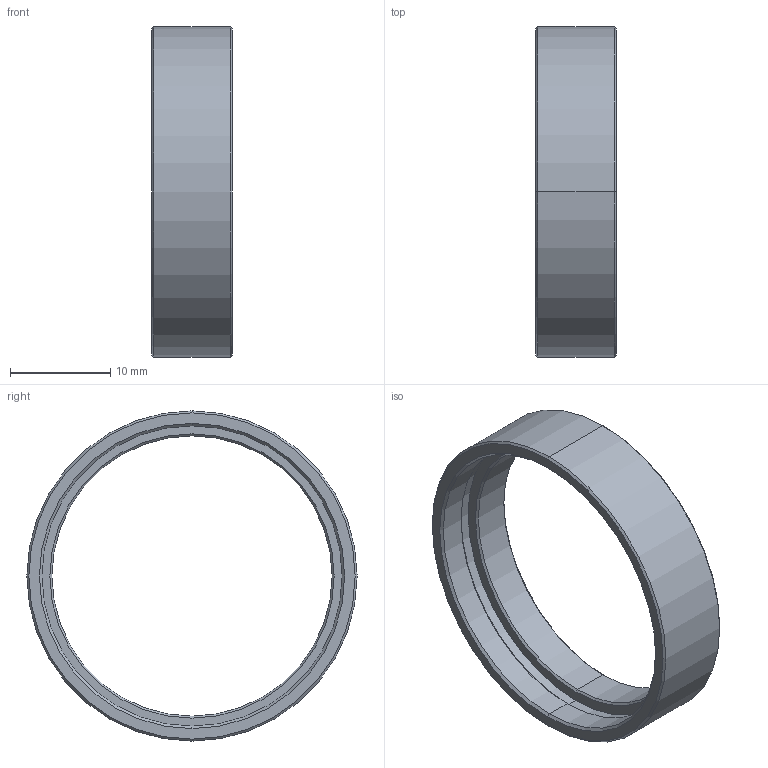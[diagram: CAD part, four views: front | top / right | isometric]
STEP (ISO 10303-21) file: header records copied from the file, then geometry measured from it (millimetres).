
FILE_DESCRIPTION (( 'STEP AP203' ), '1' );
FILE_NAME ('VS-FAD28-305.STEP', '2016-03-25T00:19:50', ( 'miura_vst' ), ( '' ), 'SwSTEP 2.0', 'SolidWorks 2016', '' );
FILE_SCHEMA (( 'CONFIG_CONTROL_DESIGN' ));
Length unit declared in the file: millimetre
Products named in the file (1): VS-FAD28-305
Bounding box: 8 x 33 x 33 mm (x, y, z)
Volume: 1514.6 mm3; surface area: 2014.1 mm2
Topology: 1 solids, 1 shells, 23 faces, 46 edges, 26 vertices
Faces by surface type: cone 12, cylinder 8, plane 3
Entity records: 675 total; most frequent: DIRECTION 120, CARTESIAN_POINT 96, ORIENTED_EDGE 92, AXIS2_PLACEMENT_3D 50, EDGE_CURVE 46, VERTEX_POINT 26, CIRCLE 26, EDGE_LOOP 26
